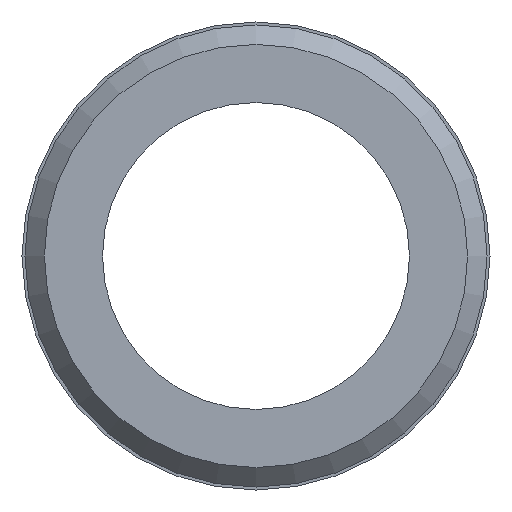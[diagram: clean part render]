
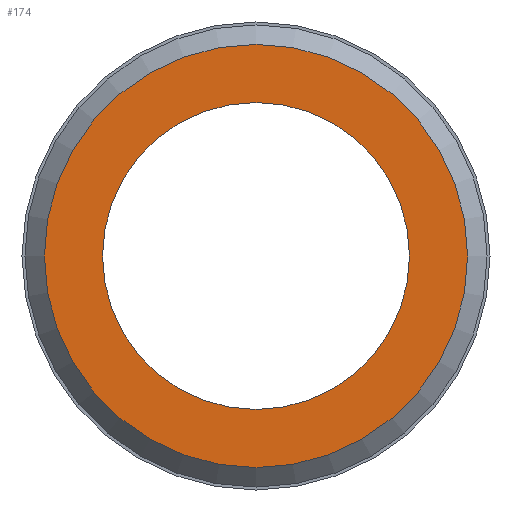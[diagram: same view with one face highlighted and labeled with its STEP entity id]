
A CAD part, front view. The second image highlights one B-rep face of the part: STEP entity #174.
In plain terms, the highlighted planar face has unit normal (0, -1, 0).
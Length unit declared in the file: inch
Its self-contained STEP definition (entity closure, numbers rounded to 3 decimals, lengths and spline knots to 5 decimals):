
#16=FACE_BOUND('',#41,.T.);
#20=PLANE('',#202);
#30=FACE_OUTER_BOUND('',#40,.T.);
#40=EDGE_LOOP('',(#133));
#41=EDGE_LOOP('',(#134,#135));
#62=CIRCLE('',#197,0.1985);
#66=CIRCLE('',#203,0.144);
#67=CIRCLE('',#204,0.144);
#81=VERTEX_POINT('',#292);
#85=VERTEX_POINT('',#304);
#86=VERTEX_POINT('',#305);
#99=EDGE_CURVE('',#81,#81,#62,.T.);
#105=EDGE_CURVE('',#85,#86,#66,.T.);
#106=EDGE_CURVE('',#86,#85,#67,.T.);
#133=ORIENTED_EDGE('',*,*,#99,.F.);
#134=ORIENTED_EDGE('',*,*,#105,.F.);
#135=ORIENTED_EDGE('',*,*,#106,.F.);
#174=ADVANCED_FACE('',(#30,#16),#20,.T.);
#197=AXIS2_PLACEMENT_3D('',#293,#229,#230);
#202=AXIS2_PLACEMENT_3D('',#303,#241,#242);
#203=AXIS2_PLACEMENT_3D('',#306,#243,#244);
#204=AXIS2_PLACEMENT_3D('',#307,#245,#246);
#229=DIRECTION('center_axis',(0.,1.,0.));
#230=DIRECTION('ref_axis',(0.,0.,1.));
#241=DIRECTION('center_axis',(0.,-1.,0.));
#242=DIRECTION('ref_axis',(0.,0.,-1.));
#243=DIRECTION('center_axis',(0.,-1.,0.));
#244=DIRECTION('ref_axis',(1.,0.,0.));
#245=DIRECTION('center_axis',(0.,-1.,0.));
#246=DIRECTION('ref_axis',(1.,0.,0.));
#292=CARTESIAN_POINT('',(0.,0.,-0.1985));
#293=CARTESIAN_POINT('Origin',(0.,0.,0.));
#303=CARTESIAN_POINT('Origin',(0.,0.,-0.144));
#304=CARTESIAN_POINT('',(0.,0.,-0.144));
#305=CARTESIAN_POINT('',(0.,0.,0.144));
#306=CARTESIAN_POINT('Origin',(0.,0.,0.));
#307=CARTESIAN_POINT('Origin',(0.,0.,0.));
